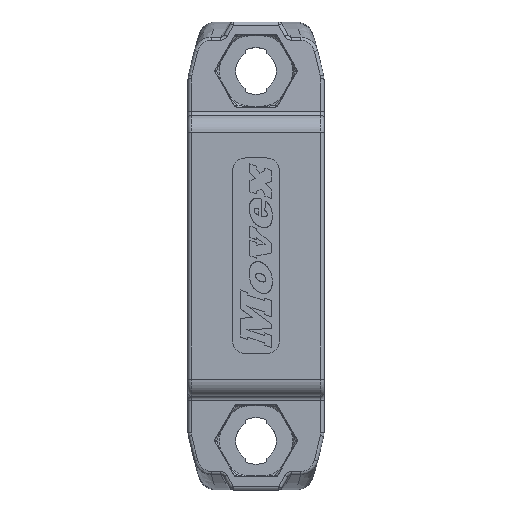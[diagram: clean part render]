
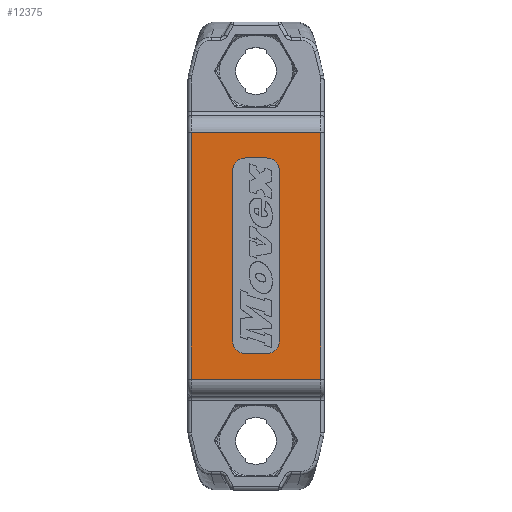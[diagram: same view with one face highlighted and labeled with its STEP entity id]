
A CAD part, top view. The second image highlights one B-rep face of the part: STEP entity #12375.
In plain terms, the highlighted planar face has unit normal (0, 0, 1).
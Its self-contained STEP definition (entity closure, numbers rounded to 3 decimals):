
#7658=CARTESIAN_POINT('Vertex',(-7.6,14.5,16.5)) ;
#7661=CARTESIAN_POINT('Line Origine',(0.,14.5,16.5)) ;
#7665=CARTESIAN_POINT('Vertex',(7.6,14.5,16.5)) ;
#7689=CARTESIAN_POINT('Vertex',(-7.6,-14.5,16.5)) ;
#7705=CARTESIAN_POINT('Vertex',(7.6,-14.5,16.5)) ;
#7708=CARTESIAN_POINT('Line Origine',(0.,-14.5,16.5)) ;
#9660=CARTESIAN_POINT('Line Origine',(7.6,0.,16.5)) ;
#10440=CARTESIAN_POINT('Line Origine',(-7.6,0.,16.5)) ;
#12298=CARTESIAN_POINT('Axis2P3D Location',(0.,-14.5,16.5)) ;
#12309=CARTESIAN_POINT('Axis2P3D Location',(-1.25,10.,16.5)) ;
#12313=CARTESIAN_POINT('Vertex',(-1.25,11.5,16.5)) ;
#12315=CARTESIAN_POINT('Vertex',(-2.75,10.,16.5)) ;
#12318=CARTESIAN_POINT('Line Origine',(0.,11.5,16.5)) ;
#12322=CARTESIAN_POINT('Vertex',(1.25,11.5,16.5)) ;
#12325=CARTESIAN_POINT('Axis2P3D Location',(1.25,10.,16.5)) ;
#12329=CARTESIAN_POINT('Vertex',(2.75,10.,16.5)) ;
#12332=CARTESIAN_POINT('Line Origine',(2.75,0.,16.5)) ;
#12336=CARTESIAN_POINT('Vertex',(2.75,-10.,16.5)) ;
#12339=CARTESIAN_POINT('Axis2P3D Location',(1.25,-10.,16.5)) ;
#12343=CARTESIAN_POINT('Vertex',(1.25,-11.5,16.5)) ;
#12346=CARTESIAN_POINT('Line Origine',(0.,-11.5,16.5)) ;
#12350=CARTESIAN_POINT('Vertex',(-1.25,-11.5,16.5)) ;
#12353=CARTESIAN_POINT('Axis2P3D Location',(-1.25,-10.,16.5)) ;
#12357=CARTESIAN_POINT('Vertex',(-2.75,-10.,16.5)) ;
#12360=CARTESIAN_POINT('Line Origine',(-2.75,0.,16.5)) ;
#7662=DIRECTION('Vector Direction',(1.,0.,0.)) ;
#7709=DIRECTION('Vector Direction',(1.,0.,0.)) ;
#9661=DIRECTION('Vector Direction',(0.,1.,0.)) ;
#10441=DIRECTION('Vector Direction',(0.,1.,0.)) ;
#12299=DIRECTION('Axis2P3D Direction',(0.,0.,-1.)) ;
#12300=DIRECTION('Axis2P3D XDirection',(0.,1.,0.)) ;
#12310=DIRECTION('Axis2P3D Direction',(0.,0.,-1.)) ;
#12319=DIRECTION('Vector Direction',(1.,0.,0.)) ;
#12326=DIRECTION('Axis2P3D Direction',(0.,0.,-1.)) ;
#12333=DIRECTION('Vector Direction',(0.,-1.,0.)) ;
#12340=DIRECTION('Axis2P3D Direction',(0.,0.,-1.)) ;
#12347=DIRECTION('Vector Direction',(-1.,0.,0.)) ;
#12354=DIRECTION('Axis2P3D Direction',(0.,0.,-1.)) ;
#12361=DIRECTION('Vector Direction',(0.,1.,0.)) ;
#12301=AXIS2_PLACEMENT_3D('Plane Axis2P3D',#12298,#12299,#12300) ;
#12311=AXIS2_PLACEMENT_3D('Circle Axis2P3D',#12309,#12310,$) ;
#12327=AXIS2_PLACEMENT_3D('Circle Axis2P3D',#12325,#12326,$) ;
#12341=AXIS2_PLACEMENT_3D('Circle Axis2P3D',#12339,#12340,$) ;
#12355=AXIS2_PLACEMENT_3D('Circle Axis2P3D',#12353,#12354,$) ;
#12304=ORIENTED_EDGE('',*,*,#7712,.T.) ;
#12305=ORIENTED_EDGE('',*,*,#9664,.T.) ;
#12306=ORIENTED_EDGE('',*,*,#7667,.F.) ;
#12307=ORIENTED_EDGE('',*,*,#10444,.T.) ;
#12366=ORIENTED_EDGE('',*,*,#12317,.F.) ;
#12367=ORIENTED_EDGE('',*,*,#12324,.F.) ;
#12368=ORIENTED_EDGE('',*,*,#12331,.F.) ;
#12369=ORIENTED_EDGE('',*,*,#12338,.F.) ;
#12370=ORIENTED_EDGE('',*,*,#12345,.F.) ;
#12371=ORIENTED_EDGE('',*,*,#12352,.F.) ;
#12372=ORIENTED_EDGE('',*,*,#12359,.F.) ;
#12373=ORIENTED_EDGE('',*,*,#12364,.F.) ;
#12374=FACE_BOUND('',#12365,.T.) ;
#7663=VECTOR('Line Direction',#7662,1.) ;
#7710=VECTOR('Line Direction',#7709,1.) ;
#9662=VECTOR('Line Direction',#9661,1.) ;
#10442=VECTOR('Line Direction',#10441,1.) ;
#12320=VECTOR('Line Direction',#12319,1.) ;
#12334=VECTOR('Line Direction',#12333,1.) ;
#12348=VECTOR('Line Direction',#12347,1.) ;
#12362=VECTOR('Line Direction',#12361,1.) ;
#12375=ADVANCED_FACE('PartBody',(#12308,#12374),#12302,.F.) ;
#12312=CIRCLE('generated circle',#12311,1.5) ;
#12328=CIRCLE('generated circle',#12327,1.5) ;
#12342=CIRCLE('generated circle',#12341,1.5) ;
#12356=CIRCLE('generated circle',#12355,1.5) ;
#7667=EDGE_CURVE('',#7659,#7666,#7664,.T.) ;
#7712=EDGE_CURVE('',#7690,#7706,#7711,.T.) ;
#9664=EDGE_CURVE('',#7706,#7666,#9663,.T.) ;
#10444=EDGE_CURVE('',#7659,#7690,#10443,.F.) ;
#12317=EDGE_CURVE('',#12314,#12316,#12312,.F.) ;
#12324=EDGE_CURVE('',#12323,#12314,#12321,.F.) ;
#12331=EDGE_CURVE('',#12330,#12323,#12328,.F.) ;
#12338=EDGE_CURVE('',#12337,#12330,#12335,.F.) ;
#12345=EDGE_CURVE('',#12344,#12337,#12342,.F.) ;
#12352=EDGE_CURVE('',#12351,#12344,#12349,.F.) ;
#12359=EDGE_CURVE('',#12358,#12351,#12356,.F.) ;
#12364=EDGE_CURVE('',#12316,#12358,#12363,.F.) ;
#12303=EDGE_LOOP('',(#12304,#12305,#12306,#12307)) ;
#12365=EDGE_LOOP('',(#12366,#12367,#12368,#12369,#12370,#12371,#12372,#12373)) ;
#12308=FACE_OUTER_BOUND('',#12303,.T.) ;
#7664=LINE('Line',#7661,#7663) ;
#7711=LINE('Line',#7708,#7710) ;
#9663=LINE('Line',#9660,#9662) ;
#10443=LINE('Line',#10440,#10442) ;
#12321=LINE('Line',#12318,#12320) ;
#12335=LINE('Line',#12332,#12334) ;
#12349=LINE('Line',#12346,#12348) ;
#12363=LINE('Line',#12360,#12362) ;
#12302=PLANE('',#12301) ;
#7659=VERTEX_POINT('',#7658) ;
#7666=VERTEX_POINT('',#7665) ;
#7690=VERTEX_POINT('',#7689) ;
#7706=VERTEX_POINT('',#7705) ;
#12314=VERTEX_POINT('',#12313) ;
#12316=VERTEX_POINT('',#12315) ;
#12323=VERTEX_POINT('',#12322) ;
#12330=VERTEX_POINT('',#12329) ;
#12337=VERTEX_POINT('',#12336) ;
#12344=VERTEX_POINT('',#12343) ;
#12351=VERTEX_POINT('',#12350) ;
#12358=VERTEX_POINT('',#12357) ;
